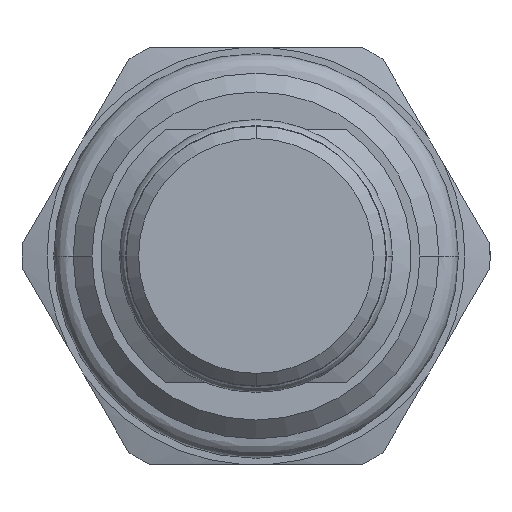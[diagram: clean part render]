
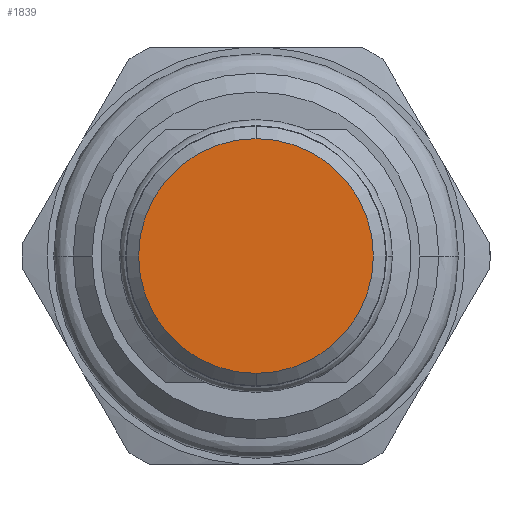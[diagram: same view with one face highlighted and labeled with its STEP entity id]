
A CAD part, front view. The second image highlights one B-rep face of the part: STEP entity #1839.
In plain terms, the highlighted planar face has unit normal (0, -1, 0).
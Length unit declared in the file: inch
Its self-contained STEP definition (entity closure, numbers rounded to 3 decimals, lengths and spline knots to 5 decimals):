
#740=CARTESIAN_POINT('',(0.,-1.253,0.));
#741=DIRECTION('',(0.,1.,0.));
#742=DIRECTION('',(0.,0.,1.));
#743=AXIS2_PLACEMENT_3D('',#740,#741,#742);
#750=CARTESIAN_POINT('',(0.,-1.253,0.));
#751=DIRECTION('',(0.,1.,0.));
#752=DIRECTION('',(0.,0.,-1.));
#753=AXIS2_PLACEMENT_3D('',#750,#751,#752);
#825=CARTESIAN_POINT('',(0.,-1.253,0.281));
#826=CARTESIAN_POINT('',(0.,-1.253,-0.281));
#827=VERTEX_POINT('',#825);
#828=VERTEX_POINT('',#826);
#1829=CARTESIAN_POINT('',(0.,-1.253,0.));
#1830=DIRECTION('',(0.,-1.,0.));
#1831=DIRECTION('',(0.,0.,1.));
#1832=AXIS2_PLACEMENT_3D('',#1829,#1830,#1831);
#1833=PLANE('',#1832);
#1835=ORIENTED_EDGE('',*,*,#1834,.T.);
#1836=ORIENTED_EDGE('',*,*,#1819,.T.);
#1837=EDGE_LOOP('',(#1835,#1836));
#1838=FACE_OUTER_BOUND('',#1837,.F.);
#1839=ADVANCED_FACE('',(#1838),#1833,.T.);
#744=CIRCLE('',#743,0.281);
#754=CIRCLE('',#753,0.281);
#1819=EDGE_CURVE('',#827,#828,#744,.T.);
#1834=EDGE_CURVE('',#828,#827,#754,.T.);
